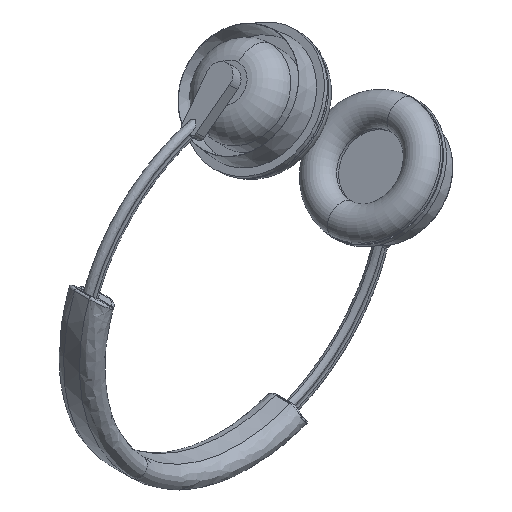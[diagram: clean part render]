
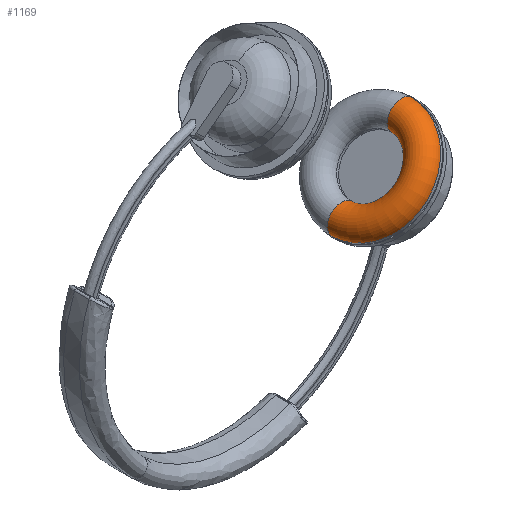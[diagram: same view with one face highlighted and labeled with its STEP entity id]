
A CAD part, isometric view. The second image highlights one B-rep face of the part: STEP entity #1169.
In plain terms, the highlighted toroidal (fillet/blend) face has major radius 37.5 mm and minor radius 12.5 mm.
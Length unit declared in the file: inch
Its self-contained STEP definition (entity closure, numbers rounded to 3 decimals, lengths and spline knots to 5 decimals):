
#196 = CARTESIAN_POINT ( 'NONE',  ( 2.01832, 0., 1.32235 ) ) ;
#331 = DIRECTION ( 'NONE',  ( -0.707, 0., 0.707 ) ) ;
#944 = EDGE_CURVE ( 'NONE', #3420, #2961, #2973, .T. ) ;
#1151 = CARTESIAN_POINT ( 'NONE',  ( 3.41026, 0., 2.71429 ) ) ;
#1169 = ADVANCED_FACE ( 'NONE', ( #4497 ), #6953, .T. ) ;
#1237 = CARTESIAN_POINT ( 'NONE',  ( 0.97436, 0., 0.27839 ) ) ;
#1989 = CIRCLE ( 'NONE', #3418, 0.49213 ) ;
#2205 = CARTESIAN_POINT ( 'NONE',  ( 1.32235, 0., 0.62637 ) ) ;
#2385 = AXIS2_PLACEMENT_3D ( 'NONE', #7040, #331, #4255 ) ;
#2414 = DIRECTION ( 'NONE',  ( 0.707, 0., 0.707 ) ) ;
#2435 = EDGE_CURVE ( 'NONE', #3420, #6886, #5305, .T. ) ;
#2478 = EDGE_CURVE ( 'NONE', #6494, #6886, #5586, .T. ) ;
#2890 = DIRECTION ( 'NONE',  ( 0., 1., 0. ) ) ;
#2958 = CARTESIAN_POINT ( 'NONE',  ( 2.01832, 0., 1.32235 ) ) ;
#2961 = VERTEX_POINT ( 'NONE', #3400 ) ;
#2973 = CIRCLE ( 'NONE', #6697, 1.9685 ) ;
#3400 = CARTESIAN_POINT ( 'NONE',  ( 0.62637, 0., -0.0696 ) ) ;
#3418 = AXIS2_PLACEMENT_3D ( 'NONE', #1237, #2890, #3999 ) ;
#3420 = VERTEX_POINT ( 'NONE', #1151 ) ;
#3999 = DIRECTION ( 'NONE',  ( -1., 0., 0. ) ) ;
#4055 = DIRECTION ( 'NONE',  ( 0., -1., 0. ) ) ;
#4255 = DIRECTION ( 'NONE',  ( 0.707, 0., 0.707 ) ) ;
#4261 = ORIENTED_EDGE ( 'NONE', *, *, #2435, .T. ) ;
#4497 = FACE_OUTER_BOUND ( 'NONE', #7141, .T. ) ;
#4662 = DIRECTION ( 'NONE',  ( -0.707, 0., 0.707 ) ) ;
#4852 = CARTESIAN_POINT ( 'NONE',  ( 2.71429, 0., 2.01832 ) ) ;
#5074 = AXIS2_PLACEMENT_3D ( 'NONE', #196, #4662, #5229 ) ;
#5229 = DIRECTION ( 'NONE',  ( 0.707, 0., 0.707 ) ) ;
#5305 = CIRCLE ( 'NONE', #7107, 0.49213 ) ;
#5424 = ORIENTED_EDGE ( 'NONE', *, *, #2478, .F. ) ;
#5562 = ORIENTED_EDGE ( 'NONE', *, *, #6642, .F. ) ;
#5586 = CIRCLE ( 'NONE', #5074, 0.98425 ) ;
#5768 = DIRECTION ( 'NONE',  ( 0.707, 0., -0.707 ) ) ;
#6292 = DIRECTION ( 'NONE',  ( 0., 0., -1. ) ) ;
#6494 = VERTEX_POINT ( 'NONE', #2205 ) ;
#6642 = EDGE_CURVE ( 'NONE', #2961, #6494, #1989, .T. ) ;
#6674 = ORIENTED_EDGE ( 'NONE', *, *, #944, .F. ) ;
#6697 = AXIS2_PLACEMENT_3D ( 'NONE', #2958, #5768, #2414 ) ;
#6886 = VERTEX_POINT ( 'NONE', #4852 ) ;
#6936 = CARTESIAN_POINT ( 'NONE',  ( 3.06227, 0., 2.3663 ) ) ;
#6953 = TOROIDAL_SURFACE ( 'NONE', #2385, 1.47638, 0.49213 ) ;
#7040 = CARTESIAN_POINT ( 'NONE',  ( 2.01832, 0., 1.32235 ) ) ;
#7107 = AXIS2_PLACEMENT_3D ( 'NONE', #6936, #4055, #6292 ) ;
#7141 = EDGE_LOOP ( 'NONE', ( #5562, #6674, #4261, #5424 ) ) ;
